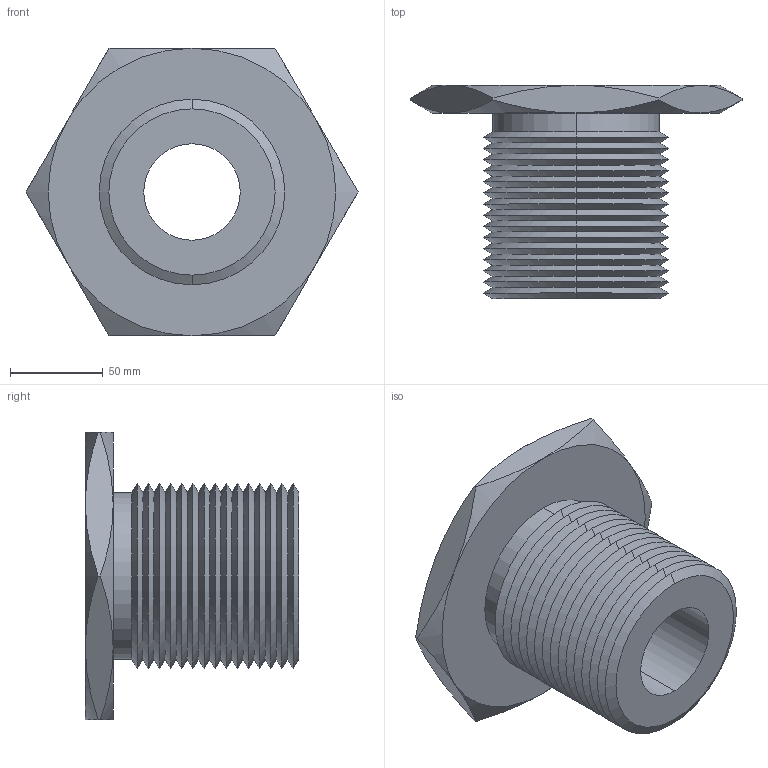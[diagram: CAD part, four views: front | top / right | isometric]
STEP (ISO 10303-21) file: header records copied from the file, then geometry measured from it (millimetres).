
FILE_DESCRIPTION (( 'STEP AP203' ), '1' );
FILE_NAME ('63302.W0100_M52x5.step', '2013-12-08T11:30:59', ( 'User' ), ( '' ), 'SwSTEP 2.0', 'SolidWorks 2009', '' );
FILE_SCHEMA (( 'CONFIG_CONTROL_DESIGN' ));
Length unit declared in the file: millimetre
Products named in the file (1): 63302.W0100_M52x5
Bounding box: 178.98 x 115 x 155 mm (x, y, z)
Volume: 756617.8 mm3; surface area: 118235 mm2
Topology: 1 solids, 1 shells, 87 faces, 178 edges, 94 vertices
Faces by surface type: cone 74, plane 9, cylinder 4
Entity records: 2479 total; most frequent: CARTESIAN_POINT 584, DIRECTION 412, ORIENTED_EDGE 356, EDGE_CURVE 178, AXIS2_PLACEMENT_3D 170, VERTEX_POINT 94, EDGE_LOOP 90, ADVANCED_FACE 87
